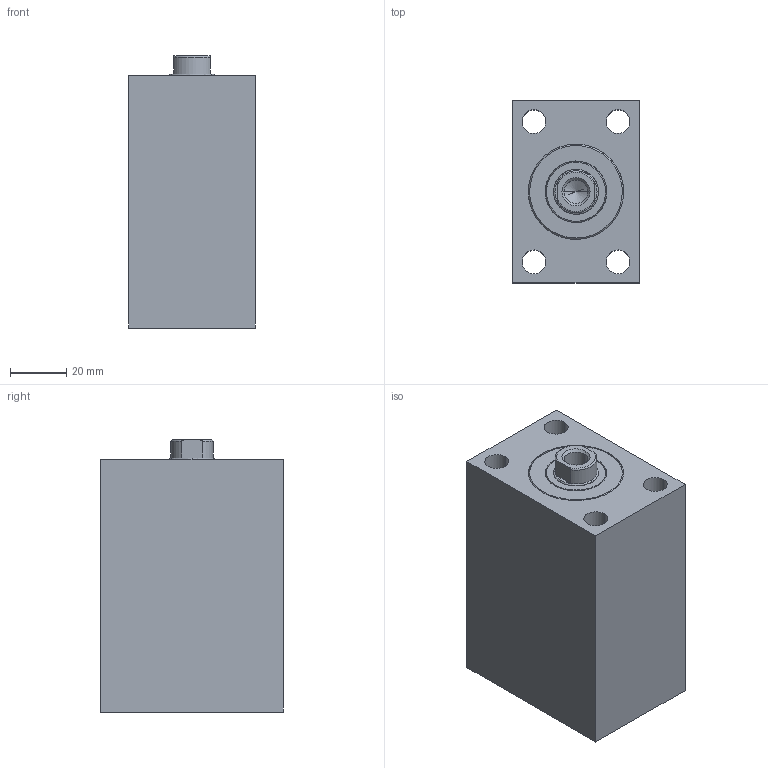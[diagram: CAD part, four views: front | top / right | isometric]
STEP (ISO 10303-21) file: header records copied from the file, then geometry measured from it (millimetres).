
FILE_DESCRIPTION (( 'STEP AP214' ), '1' );
FILE_NAME ('KBZ_02_25-16-25.STEP', '2018-12-30T11:37:13', ( '' ), ( '' ), 'SwSTEP 2.0', 'SolidWorks 2018', '' );
FILE_SCHEMA (( 'AUTOMOTIVE_DESIGN' ));
Length unit declared in the file: millimetre
Products named in the file (6): HI_SBZ10025  FORM=02 STROKE=25 H2=58 -C.stp; SBZ100-25-16-25.stp; HI_SBZ100.25-S.stp; KBZ_02_25-16-25; HI_SBZ100.25-C.stp; HI_SBZ10025  FORM=02 STROKE=25-R.stp
Assembly tree (5 placements, depth 3):
  KBZ_02_25-16-25
    SBZ100-25-16-25.stp
      HI_SBZ10025  FORM=02 STROKE=25 H2=58 -C.stp
      HI_SBZ10025  FORM=02 STROKE=25-R.stp
      HI_SBZ100.25-C.stp
      HI_SBZ100.25-S.stp
Bounding box: 45 x 65 x 97 mm (x, y, z)
Volume: 228965 mm3; surface area: 56622.9 mm2
Topology: 4 solids, 4 shells, 97 faces, 210 edges, 135 vertices
Faces by surface type: cylinder 54, plane 31, cone 8, torus 4
Entity records: 5480 total; most frequent: CARTESIAN_POINT 3377, ORIENTED_EDGE 416, DIRECTION 292, EDGE_CURVE 208, VERTEX_POINT 135, B_SPLINE_CURVE_WITH_KNOTS 130, EDGE_LOOP 129, AXIS2_PLACEMENT_3D 108
